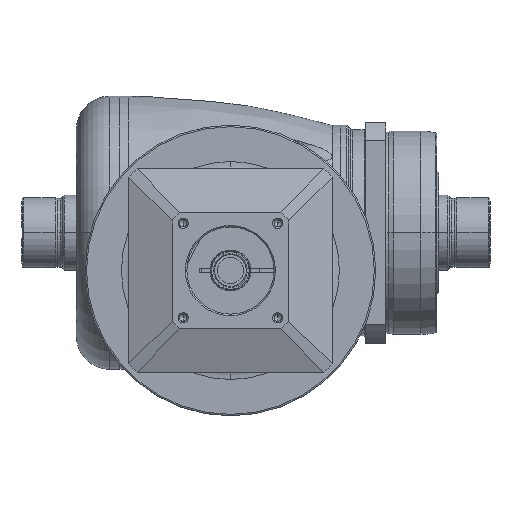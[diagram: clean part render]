
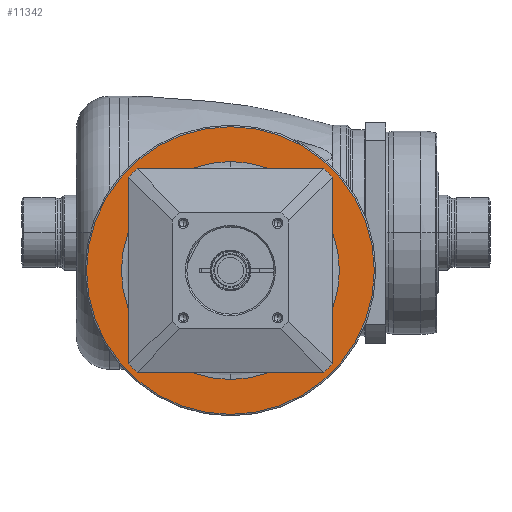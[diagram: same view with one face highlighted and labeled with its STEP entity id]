
A CAD part, front view. The second image highlights one B-rep face of the part: STEP entity #11342.
In plain terms, the highlighted planar face has unit normal (0, -1, 0) as drawn and (1, 0, 0) by its records, which use the part's own axes.
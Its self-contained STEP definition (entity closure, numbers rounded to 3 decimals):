
#10373=CARTESIAN_POINT('',(-10.,0.,0.));
#10374=DIRECTION('',(-1.,0.,0.));
#10375=DIRECTION('',(0.,-1.,0.));
#10376=AXIS2_PLACEMENT_3D('',#10373,#10374,#10375);
#10378=CARTESIAN_POINT('',(-10.,0.,0.));
#10379=DIRECTION('',(-1.,0.,0.));
#10380=DIRECTION('',(0.,1.,0.));
#10381=AXIS2_PLACEMENT_3D('',#10378,#10379,#10380);
#10383=CARTESIAN_POINT('',(-10.,0.,0.));
#10384=DIRECTION('',(-1.,0.,0.));
#10385=DIRECTION('',(0.,-1.,0.));
#10386=AXIS2_PLACEMENT_3D('',#10383,#10384,#10385);
#10388=CARTESIAN_POINT('',(-10.,0.,0.));
#10389=DIRECTION('',(-1.,0.,0.));
#10390=DIRECTION('',(0.,1.,0.));
#10391=AXIS2_PLACEMENT_3D('',#10388,#10389,#10390);
#10635=CARTESIAN_POINT('',(-10.,-49.5,0.));
#10636=CARTESIAN_POINT('',(-10.,49.5,0.));
#10637=VERTEX_POINT('',#10635);
#10638=VERTEX_POINT('',#10636);
#10693=CARTESIAN_POINT('',(-10.,-37.5,0.));
#10694=CARTESIAN_POINT('',(-10.,37.5,0.));
#10695=VERTEX_POINT('',#10693);
#10696=VERTEX_POINT('',#10694);
#11327=CARTESIAN_POINT('',(-10.,0.,0.));
#11328=DIRECTION('',(1.,0.,0.));
#11329=DIRECTION('',(0.,-1.,0.));
#11330=AXIS2_PLACEMENT_3D('',#11327,#11328,#11329);
#11331=PLANE('',#11330);
#11332=ORIENTED_EDGE('',*,*,#11283,.T.);
#11333=ORIENTED_EDGE('',*,*,#11268,.T.);
#11334=EDGE_LOOP('',(#11332,#11333));
#11335=FACE_OUTER_BOUND('',#11334,.F.);
#11337=ORIENTED_EDGE('',*,*,#11336,.F.);
#11339=ORIENTED_EDGE('',*,*,#11338,.F.);
#11340=EDGE_LOOP('',(#11337,#11339));
#11341=FACE_BOUND('',#11340,.F.);
#11342=ADVANCED_FACE('',(#11335,#11341),#11331,.T.);
#10377=CIRCLE('',#10376,37.5);
#10382=CIRCLE('',#10381,37.5);
#10387=CIRCLE('',#10386,49.5);
#10392=CIRCLE('',#10391,49.5);
#11268=EDGE_CURVE('',#10638,#10637,#10392,.T.);
#11283=EDGE_CURVE('',#10637,#10638,#10387,.T.);
#11336=EDGE_CURVE('',#10695,#10696,#10377,.T.);
#11338=EDGE_CURVE('',#10696,#10695,#10382,.T.);
